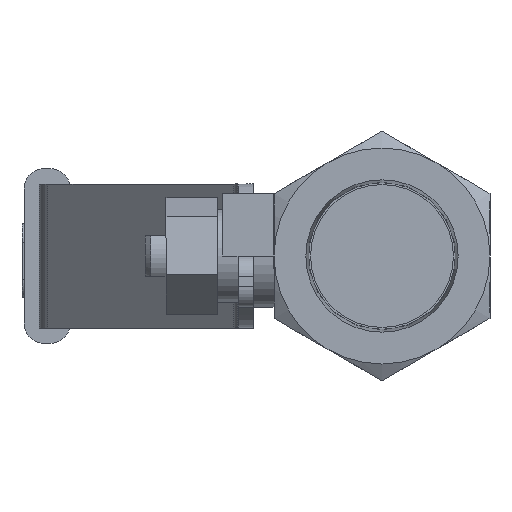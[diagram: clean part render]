
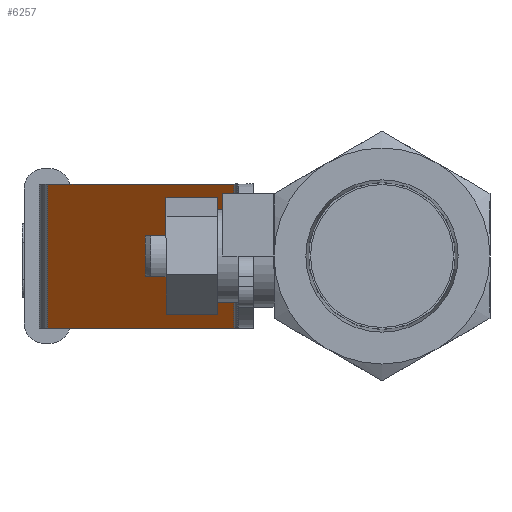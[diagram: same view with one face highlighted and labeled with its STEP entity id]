
A CAD part, left-side view. The second image highlights one B-rep face of the part: STEP entity #6257.
In plain terms, the highlighted planar face has unit normal (-0.685, 0.728, 0).
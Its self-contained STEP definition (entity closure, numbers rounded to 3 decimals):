
#317=PLANE('',#6658);
#554=FACE_OUTER_BOUND('',#900,.T.);
#900=EDGE_LOOP('',(#4309,#4310,#4311,#4312));
#1336=LINE('',#8786,#1950);
#1337=LINE('',#8789,#1951);
#1338=LINE('',#8791,#1952);
#1339=LINE('',#8792,#1953);
#1950=VECTOR('',#7311,10.);
#1951=VECTOR('',#7314,10.);
#1952=VECTOR('',#7315,10.);
#1953=VECTOR('',#7316,10.);
#2670=VERTEX_POINT('',#8779);
#2673=VERTEX_POINT('',#8784);
#2674=VERTEX_POINT('',#8788);
#2675=VERTEX_POINT('',#8790);
#3306=EDGE_CURVE('',#2673,#2670,#1336,.T.);
#3307=EDGE_CURVE('',#2673,#2674,#1337,.T.);
#3308=EDGE_CURVE('',#2675,#2674,#1338,.T.);
#3309=EDGE_CURVE('',#2675,#2670,#1339,.T.);
#4309=ORIENTED_EDGE('',*,*,#3306,.F.);
#4310=ORIENTED_EDGE('',*,*,#3307,.T.);
#4311=ORIENTED_EDGE('',*,*,#3308,.F.);
#4312=ORIENTED_EDGE('',*,*,#3309,.T.);
#6257=ADVANCED_FACE('',(#554),#317,.T.);
#6658=AXIS2_PLACEMENT_3D('',#8787,#7312,#7313);
#7311=DIRECTION('',(0.,0.,1.));
#7312=DIRECTION('center_axis',(-0.685,0.728,0.));
#7313=DIRECTION('ref_axis',(0.,0.,1.));
#7314=DIRECTION('',(-0.728,-0.685,0.));
#7315=DIRECTION('',(0.,0.,-1.));
#7316=DIRECTION('',(0.728,0.685,0.));
#8779=CARTESIAN_POINT('',(-10.618,14.485,7.));
#8784=CARTESIAN_POINT('',(-10.618,14.485,-7.));
#8786=CARTESIAN_POINT('',(-10.618,14.485,0.));
#8787=CARTESIAN_POINT('Origin',(-30.252,-3.999,0.));
#8788=CARTESIAN_POINT('',(-29.818,-3.591,-7.));
#8789=CARTESIAN_POINT('',(-9.752,15.301,-7.));
#8790=CARTESIAN_POINT('',(-29.818,-3.591,7.));
#8791=CARTESIAN_POINT('',(-29.818,-3.591,0.));
#8792=CARTESIAN_POINT('',(-9.752,15.301,7.));
